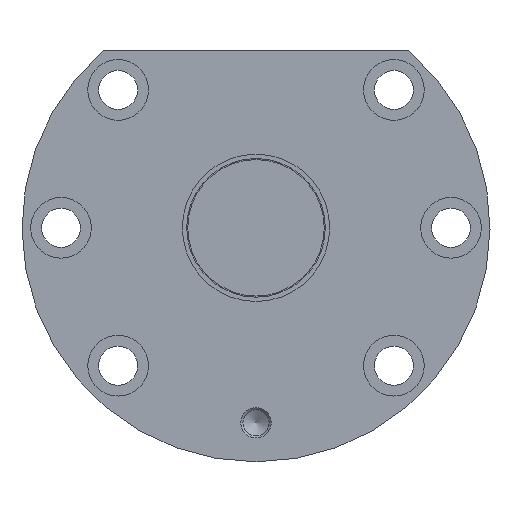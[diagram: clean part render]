
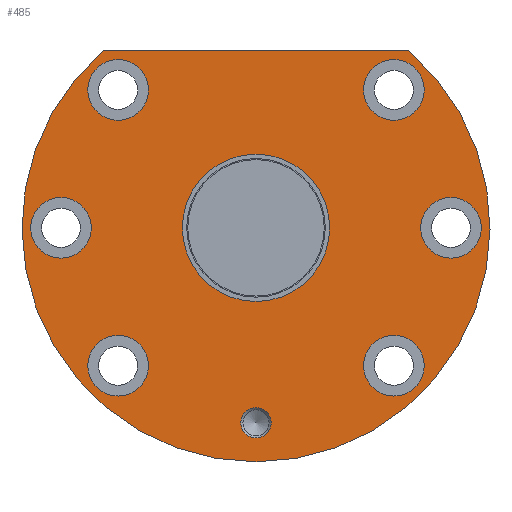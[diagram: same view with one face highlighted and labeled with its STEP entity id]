
A CAD part, left-side view. The second image highlights one B-rep face of the part: STEP entity #485.
In plain terms, the highlighted planar face has unit normal (-1, 0, 0).
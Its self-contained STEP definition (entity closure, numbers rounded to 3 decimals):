
#349=CARTESIAN_POINT('',(836.359,3.5,-45.0));
#350=VERTEX_POINT('',#349);
#351=CARTESIAN_POINT('',(836.359,0.,-45.0));
#352=DIRECTION('',(-1.0,0.0,0.0));
#353=DIRECTION('',(0.0,-1.0,0.0));
#354=AXIS2_PLACEMENT_3D('',#351,#352,#353);
#355=CIRCLE('',#354,3.5);
#356=EDGE_CURVE('',#350,#350,#355,.T.);
#381=CARTESIAN_POINT('',(836.359,27.,0.0));
#382=DIRECTION('',(-1.0,0.0,0.0));
#383=DIRECTION('',(0.0,0.0,1.0));
#384=AXIS2_PLACEMENT_3D('',#381,#382,#383);
#385=PLANE('',#384);
#386=CARTESIAN_POINT('',(836.359,35.143,41.));
#387=VERTEX_POINT('',#386);
#388=CARTESIAN_POINT('',(836.359,-35.143,41.));
#389=VERTEX_POINT('',#388);
#390=CARTESIAN_POINT('',(836.359,35.143,41.));
#391=DIRECTION('',(0.0,-1.0,0.0));
#392=VECTOR('',#391,70.285);
#393=LINE('',#390,#392);
#394=EDGE_CURVE('',#387,#389,#393,.T.);
#395=ORIENTED_EDGE('',*,*,#394,.F.);
#396=CARTESIAN_POINT('',(836.359,0.,0.0));
#397=DIRECTION('',(1.0,0.0,0.0));
#398=DIRECTION('',(0.0,1.0,0.0));
#399=AXIS2_PLACEMENT_3D('',#396,#397,#398);
#400=CIRCLE('',#399,54.0);
#401=EDGE_CURVE('',#389,#387,#400,.T.);
#402=ORIENTED_EDGE('',*,*,#401,.F.);
#403=EDGE_LOOP('',(#395,#402));
#404=FACE_OUTER_BOUND('',#403,.T.);
#405=CARTESIAN_POINT('',(836.359,17.,0.0));
#406=VERTEX_POINT('',#405);
#407=CARTESIAN_POINT('',(836.359,0.,0.0));
#408=DIRECTION('',(1.0,0.0,0.0));
#409=DIRECTION('',(0.0,1.0,0.0));
#410=AXIS2_PLACEMENT_3D('',#407,#408,#409);
#411=CIRCLE('',#410,17.);
#412=EDGE_CURVE('',#406,#406,#411,.T.);
#413=ORIENTED_EDGE('',*,*,#412,.T.);
#414=EDGE_LOOP('',(#413));
#415=FACE_BOUND('',#414,.T.);
#416=CARTESIAN_POINT('',(836.359,38.82,31.82));
#417=VERTEX_POINT('',#416);
#418=CARTESIAN_POINT('',(836.359,31.82,31.82));
#419=DIRECTION('',(1.0,0.0,0.0));
#420=DIRECTION('',(0.0,1.0,0.0));
#421=AXIS2_PLACEMENT_3D('',#418,#419,#420);
#422=CIRCLE('',#421,7.);
#423=EDGE_CURVE('',#417,#417,#422,.T.);
#424=ORIENTED_EDGE('',*,*,#423,.T.);
#425=EDGE_LOOP('',(#424));
#426=FACE_BOUND('',#425,.T.);
#427=CARTESIAN_POINT('',(836.359,38.82,-31.82));
#428=VERTEX_POINT('',#427);
#429=CARTESIAN_POINT('',(836.359,31.82,-31.82));
#430=DIRECTION('',(1.0,0.0,0.0));
#431=DIRECTION('',(0.0,1.0,0.0));
#432=AXIS2_PLACEMENT_3D('',#429,#430,#431);
#433=CIRCLE('',#432,7.);
#434=EDGE_CURVE('',#428,#428,#433,.T.);
#435=ORIENTED_EDGE('',*,*,#434,.T.);
#436=EDGE_LOOP('',(#435));
#437=FACE_BOUND('',#436,.T.);
#438=CARTESIAN_POINT('',(836.359,-38.0,0.0));
#439=VERTEX_POINT('',#438);
#440=CARTESIAN_POINT('',(836.359,-45.0,0.0));
#441=DIRECTION('',(1.0,0.0,0.0));
#442=DIRECTION('',(0.0,1.0,0.0));
#443=AXIS2_PLACEMENT_3D('',#440,#441,#442);
#444=CIRCLE('',#443,7.);
#445=EDGE_CURVE('',#439,#439,#444,.T.);
#446=ORIENTED_EDGE('',*,*,#445,.T.);
#447=EDGE_LOOP('',(#446));
#448=FACE_BOUND('',#447,.T.);
#449=CARTESIAN_POINT('',(836.359,-24.82,31.82));
#450=VERTEX_POINT('',#449);
#451=CARTESIAN_POINT('',(836.359,-31.82,31.82));
#452=DIRECTION('',(1.0,0.0,0.0));
#453=DIRECTION('',(0.0,1.0,0.0));
#454=AXIS2_PLACEMENT_3D('',#451,#452,#453);
#455=CIRCLE('',#454,7.);
#456=EDGE_CURVE('',#450,#450,#455,.T.);
#457=ORIENTED_EDGE('',*,*,#456,.T.);
#458=EDGE_LOOP('',(#457));
#459=FACE_BOUND('',#458,.T.);
#460=CARTESIAN_POINT('',(836.359,-24.82,-31.82));
#461=VERTEX_POINT('',#460);
#462=CARTESIAN_POINT('',(836.359,-31.82,-31.82));
#463=DIRECTION('',(1.0,0.0,0.0));
#464=DIRECTION('',(0.0,1.0,0.0));
#465=AXIS2_PLACEMENT_3D('',#462,#463,#464);
#466=CIRCLE('',#465,7.);
#467=EDGE_CURVE('',#461,#461,#466,.T.);
#468=ORIENTED_EDGE('',*,*,#467,.T.);
#469=EDGE_LOOP('',(#468));
#470=FACE_BOUND('',#469,.T.);
#471=CARTESIAN_POINT('',(836.359,52.0,0.0));
#472=VERTEX_POINT('',#471);
#473=CARTESIAN_POINT('',(836.359,45.0,0.0));
#474=DIRECTION('',(1.0,0.0,0.0));
#475=DIRECTION('',(0.0,1.0,0.0));
#476=AXIS2_PLACEMENT_3D('',#473,#474,#475);
#477=CIRCLE('',#476,7.);
#478=EDGE_CURVE('',#472,#472,#477,.T.);
#479=ORIENTED_EDGE('',*,*,#478,.T.);
#480=EDGE_LOOP('',(#479));
#481=FACE_BOUND('',#480,.T.);
#482=ORIENTED_EDGE('',*,*,#356,.F.);
#483=EDGE_LOOP('',(#482));
#484=FACE_BOUND('',#483,.T.);
#485=ADVANCED_FACE('',(#404,#415,#426,#437,#448,#459,#470,#481,#484),#385,.T.);
